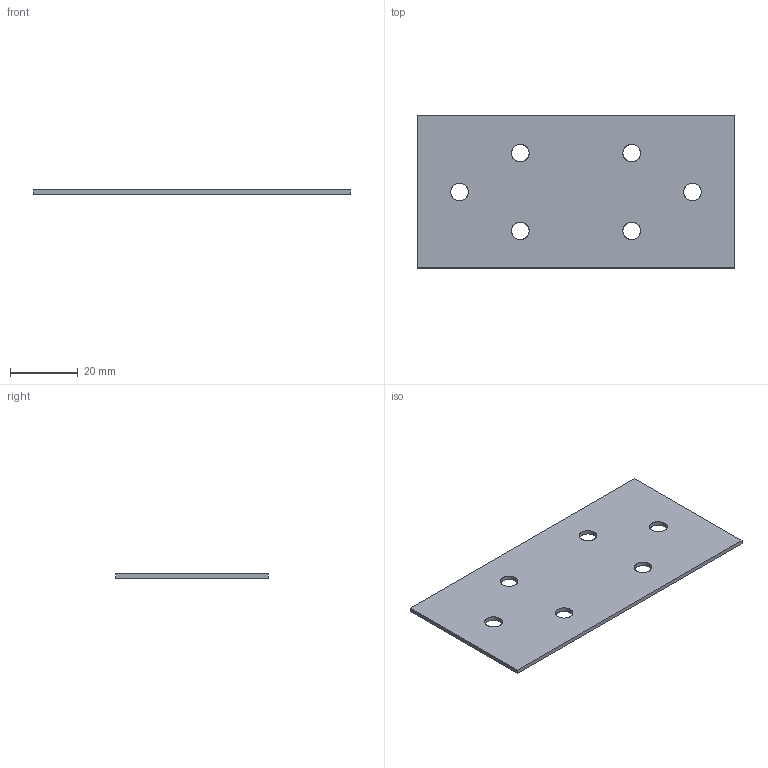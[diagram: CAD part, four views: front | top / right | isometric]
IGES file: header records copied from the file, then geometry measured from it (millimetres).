
Start section: SolidWorks IGES file using analytic representation for surfaces
Global section: file name: C:\Users\cbrechard\Desktop\AP 9351.IGS; native system: SolidWorks 2017; preprocessor: SolidWorks 2017; author: cbrechard; date: 220308.180219; units: millimetre
Bounding box: 94 x 45 x 1.2 mm (x, y, z)
Surface area: 8656.4 mm2 (no closed solid volume)
Topology: 0 solids, 0 shells, 18 faces, 456 edges, 456 vertices
Faces by surface type: revolution 12, bspline 6
